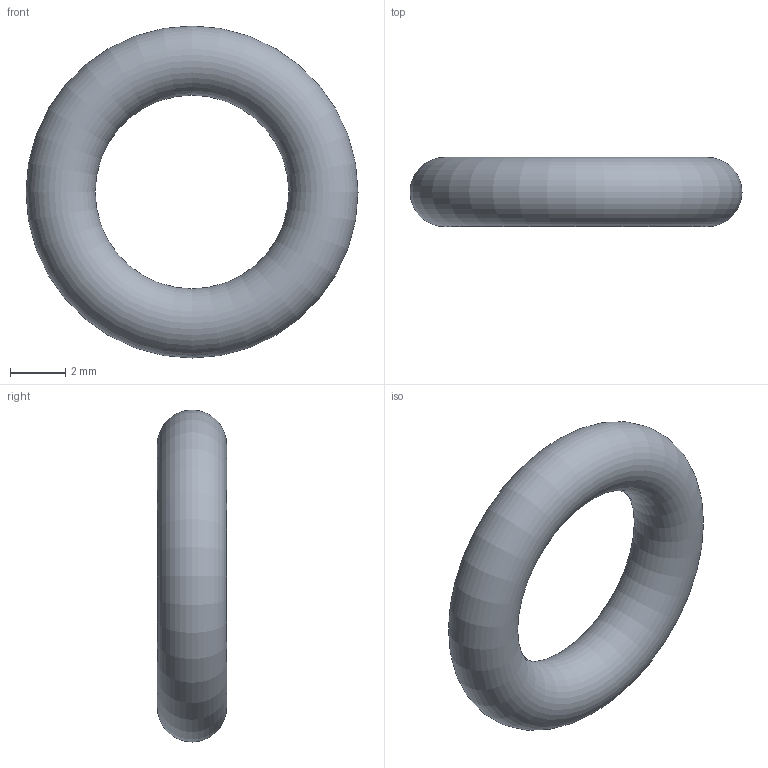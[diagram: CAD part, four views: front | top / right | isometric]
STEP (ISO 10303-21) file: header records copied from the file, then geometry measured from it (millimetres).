
FILE_DESCRIPTION( ( 'STEP AP203' ), '1' );
FILE_NAME( 'C:/Temp/Ganter_Step_05_03_2020/data/3_5/or638/O-Ring OR638-7.00-2.50-70.stp', '2020-03-12T13:44:26', ( 'License CC BY-ND 4.0' ), ( 'CADENAS' ), ' ', 'PARTsolutions', ' ' );
FILE_SCHEMA( ( 'CONFIG_CONTROL_DESIGN' ) );
Length unit declared in the file: millimetre
Products named in the file (1): _O-Ring OR638-7.00-2.50-70
Bounding box: 12 x 2.5 x 12 mm (x, y, z)
Volume: 146.5 mm3; surface area: 234.4 mm2
Topology: 1 solids, 1 shells, 1 faces, 2 edges, 1 vertices
Faces by surface type: torus 1
Entity records: 62 total; most frequent: CC_DESIGN_PERSON_AND_ORGANIZATION_ASSIGNMENT 5, PERSON_AND_ORGANIZATION_ROLE 4, DIRECTION 4, CARTESIAN_POINT 3, DATE_TIME_ROLE 2, CC_DESIGN_DATE_AND_TIME_ASSIGNMENT 2, AXIS2_PLACEMENT_3D 2, DIMENSIONAL_EXPONENTS 2
